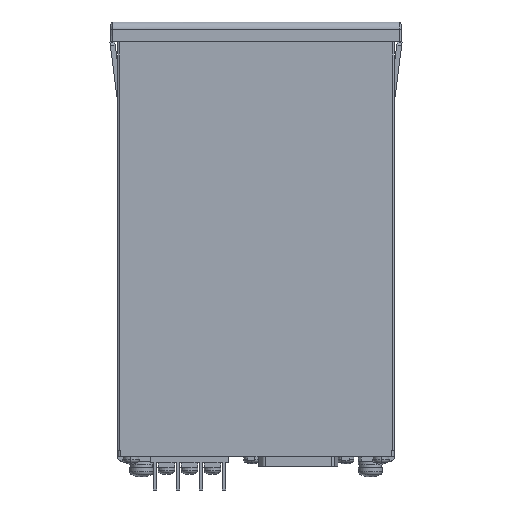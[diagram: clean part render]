
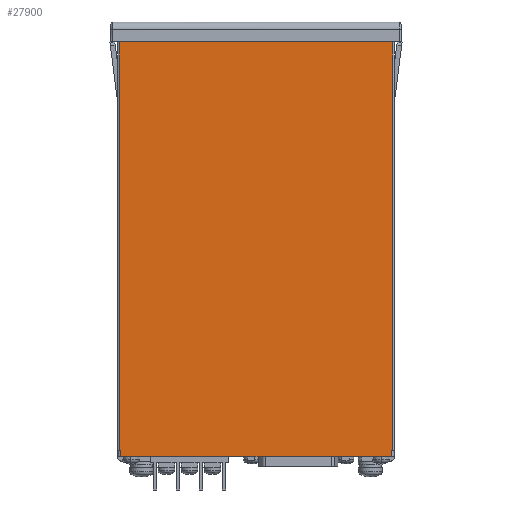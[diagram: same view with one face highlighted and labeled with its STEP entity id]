
A CAD part, front view. The second image highlights one B-rep face of the part: STEP entity #27900.
In plain terms, the highlighted planar face has unit normal (0, -1, 0).
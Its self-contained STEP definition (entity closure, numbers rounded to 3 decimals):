
#2000=CARTESIAN_POINT('',(45.2,21.8,-6.6));
#2010=VERTEX_POINT('',#2000);
#2040=CARTESIAN_POINT('',(-36.419,21.8,-6.6));
#2050=DIRECTION('',(1.,0.,0.));
#2060=VECTOR('',#2050,1.);
#2070=LINE('',#2040,#2060);
#2080=CARTESIAN_POINT('',(-45.2,21.8,-6.6));
#2090=VERTEX_POINT('',#2080);
#2100=EDGE_CURVE('',#2090,#2010,#2070,.T.);
#17610=CARTESIAN_POINT('',(-45.2,21.8,-141.6));
#17620=VERTEX_POINT('',#17610);
#17670=CARTESIAN_POINT('',(-45.2,21.8,
-76.6));
#17680=DIRECTION('',(0.,0.,-1.));
#17690=VECTOR('',#17680,1.);
#17700=LINE('',#17670,#17690);
#17710=EDGE_CURVE('',#2090,#17620,#17700,.T.);
#27350=CARTESIAN_POINT('',(45.2,21.8,
-76.6));
#27360=DIRECTION('',(-0.,1.,0.));
#27370=DIRECTION('',(1.,0.,0.));
#27380=AXIS2_PLACEMENT_3D('',#27350,#27360,#27370);
#27390=PLANE('',#27380);
#27400=CARTESIAN_POINT('',(-43.304,21.8,-141.6));
#27410=DIRECTION('',(1.,0.,0.));
#27420=VECTOR('',#27410,1.);
#27430=LINE('',#27400,#27420);
#27440=CARTESIAN_POINT('',(44.6,21.8,-141.6));
#27450=VERTEX_POINT('',#27440);
#27460=CARTESIAN_POINT('',(45.2,21.8,-141.6));
#27470=VERTEX_POINT('',#27460);
#27480=EDGE_CURVE('',#27450,#27470,#27430,.T.);
#27490=ORIENTED_EDGE('',*,*,#27480,.T.);
#27500=CARTESIAN_POINT('',(44.6,21.8,-141.6))
;
#27510=DIRECTION('',(0.,0.,-1.));
#27520=VECTOR('',#27510,1.);
#27530=LINE('',#27500,#27520);
#27540=CARTESIAN_POINT('',(44.6,21.8,-143.6));
#27550=VERTEX_POINT('',#27540);
#27560=EDGE_CURVE('',#27450,#27550,#27530,.T.);
#27570=ORIENTED_EDGE('',*,*,#27560,.F.);
#27580=CARTESIAN_POINT('',(-43.304,21.8,-143.6));
#27590=DIRECTION('',(-1.,0.,0.));
#27600=VECTOR('',#27590,1.);
#27610=LINE('',#27580,#27600);
#27620=CARTESIAN_POINT('',(-44.6,21.8,-143.6));
#27630=VERTEX_POINT('',#27620);
#27640=EDGE_CURVE('',#27550,#27630,#27610,.T.);
#27650=ORIENTED_EDGE('',*,*,#27640,.F.);
#27660=CARTESIAN_POINT('',(-44.6,21.8,-141.6
));
#27670=DIRECTION('',(0.,0.,-1.));
#27680=VECTOR('',#27670,1.);
#27690=LINE('',#27660,#27680);
#27700=CARTESIAN_POINT('',(-44.6,21.8,-141.6));
#27710=VERTEX_POINT('',#27700);
#27720=EDGE_CURVE('',#27710,#27630,#27690,.T.);
#27730=ORIENTED_EDGE('',*,*,#27720,.T.);
#27740=CARTESIAN_POINT('',(-43.304,21.8,-141.6));
#27750=DIRECTION('',(-1.,0.,0.));
#27760=VECTOR('',#27750,1.);
#27770=LINE('',#27740,#27760);
#27780=EDGE_CURVE('',#27710,#17620,#27770,.T.);
#27790=ORIENTED_EDGE('',*,*,#27780,.F.);
#27800=ORIENTED_EDGE('',*,*,#17710,.T.);
#27810=ORIENTED_EDGE('',*,*,#2100,.F.);
#27820=CARTESIAN_POINT('',(45.2,21.8,
-76.6));
#27830=DIRECTION('',(0.,0.,-1.));
#27840=VECTOR('',#27830,1.);
#27850=LINE('',#27820,#27840);
#27860=EDGE_CURVE('',#2010,#27470,#27850,.T.);
#27870=ORIENTED_EDGE('',*,*,#27860,.F.);
#27880=EDGE_LOOP('',(#27870,#27810,#27800,#27790,#27730,#27650,#27570,
#27490));
#27890=FACE_OUTER_BOUND('',#27880,.T.);
#27900=ADVANCED_FACE('',(#27890),#27390,.F.);
